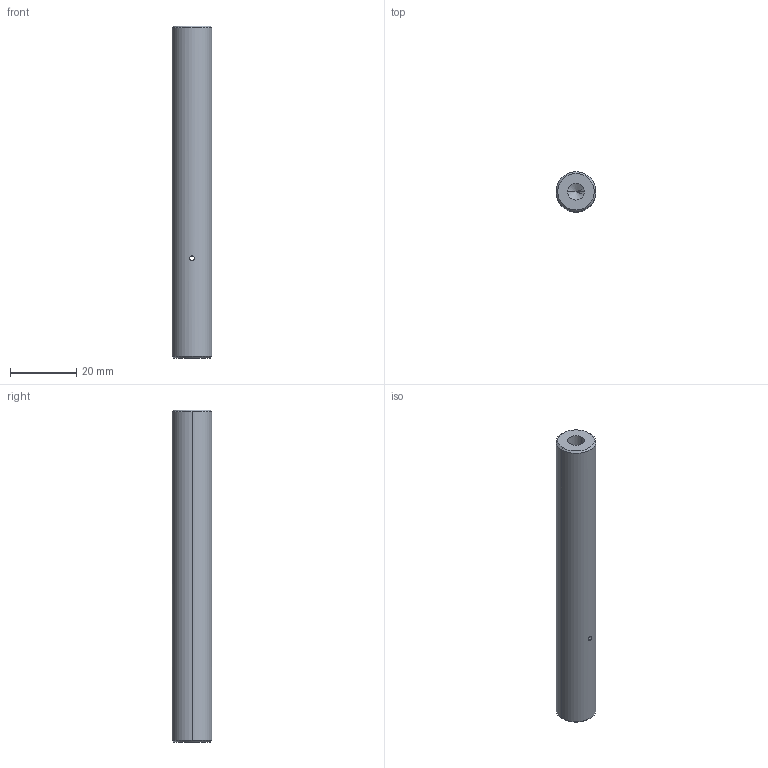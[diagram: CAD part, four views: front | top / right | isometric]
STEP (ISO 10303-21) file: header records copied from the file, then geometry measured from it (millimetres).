
FILE_DESCRIPTION (( 'STEP AP203' ), '1' );
FILE_NAME ('PHSP12-4B.step', '2019-05-09T09:08:04', ( '' ), ( '' ), 'SwSTEP 2.0', 'SolidWorks 2016', '' );
FILE_SCHEMA (( 'CONFIG_CONTROL_DESIGN' ));
Length unit declared in the file: millimetre
Products named in the file (1): PHSP12-4B
Bounding box: 12 x 12 x 100 mm (x, y, z)
Volume: 10885.8 mm3; surface area: 4371.2 mm2
Topology: 1 solids, 1 shells, 18 faces, 40 edges, 22 vertices
Faces by surface type: cylinder 8, cone 8, plane 2
Entity records: 597 total; most frequent: CARTESIAN_POINT 133, DIRECTION 86, ORIENTED_EDGE 72, EDGE_CURVE 36, AXIS2_PLACEMENT_3D 35, EDGE_LOOP 22, VERTEX_POINT 22, FACE_OUTER_BOUND 18
